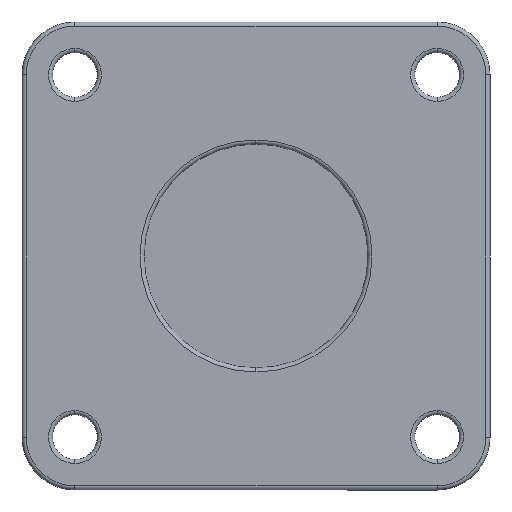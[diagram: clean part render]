
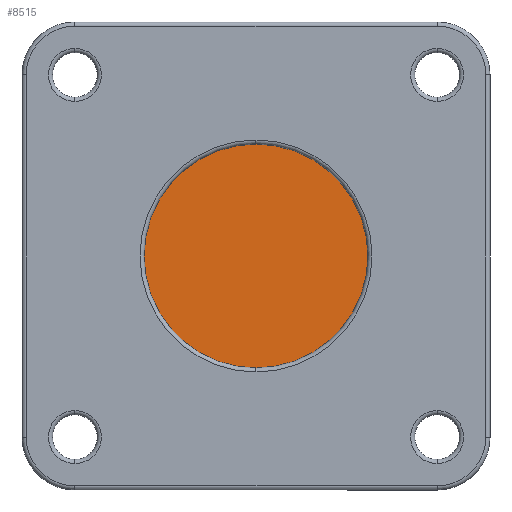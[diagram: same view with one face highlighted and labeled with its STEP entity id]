
A CAD part, front view. The second image highlights one B-rep face of the part: STEP entity #8515.
In plain terms, the highlighted planar face has unit normal (0, -1, 0).
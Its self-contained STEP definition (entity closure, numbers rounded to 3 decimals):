
#682 = DIRECTION ( 'NONE',  ( 0., -1., 0. ) ) ;
#1123 = AXIS2_PLACEMENT_3D ( 'NONE', #4590, #12138, #5691 ) ;
#2080 = EDGE_LOOP ( 'NONE', ( #4102, #9806 ) ) ;
#2540 = FACE_OUTER_BOUND ( 'NONE', #2080, .T. ) ;
#2829 = CIRCLE ( 'NONE', #11942, 27.5 ) ;
#3628 = CARTESIAN_POINT ( 'NONE',  ( 0., 5., -27.5 ) ) ;
#3818 = CARTESIAN_POINT ( 'NONE',  ( 0., 5., 27.5 ) ) ;
#4102 = ORIENTED_EDGE ( 'NONE', *, *, #6910, .T. ) ;
#4587 = DIRECTION ( 'NONE',  ( 0., -1., 0. ) ) ;
#4590 = CARTESIAN_POINT ( 'NONE',  ( 0., 5., 0. ) ) ;
#4603 = VERTEX_POINT ( 'NONE', #3628 ) ;
#5093 = CIRCLE ( 'NONE', #1123, 27.5 ) ;
#5691 = DIRECTION ( 'NONE',  ( 0., 0., -1. ) ) ;
#6910 = EDGE_CURVE ( 'NONE', #4603, #7339, #5093, .T. ) ;
#7145 = PLANE ( 'NONE',  #10889 ) ;
#7339 = VERTEX_POINT ( 'NONE', #3818 ) ;
#8243 = DIRECTION ( 'NONE',  ( 0., 0., -1. ) ) ;
#8515 = ADVANCED_FACE ( 'NONE', ( #2540 ), #7145, .T. ) ;
#9806 = ORIENTED_EDGE ( 'NONE', *, *, #12168, .T. ) ;
#10347 = CARTESIAN_POINT ( 'NONE',  ( 0., 5., 0. ) ) ;
#10889 = AXIS2_PLACEMENT_3D ( 'NONE', #10347, #682, #8243 ) ;
#11060 = CARTESIAN_POINT ( 'NONE',  ( 0., 5., 0. ) ) ;
#11942 = AXIS2_PLACEMENT_3D ( 'NONE', #11060, #4587, #12137 ) ;
#12137 = DIRECTION ( 'NONE',  ( 0., 0., -1. ) ) ;
#12138 = DIRECTION ( 'NONE',  ( 0., -1., 0. ) ) ;
#12168 = EDGE_CURVE ( 'NONE', #7339, #4603, #2829, .T. ) ;
